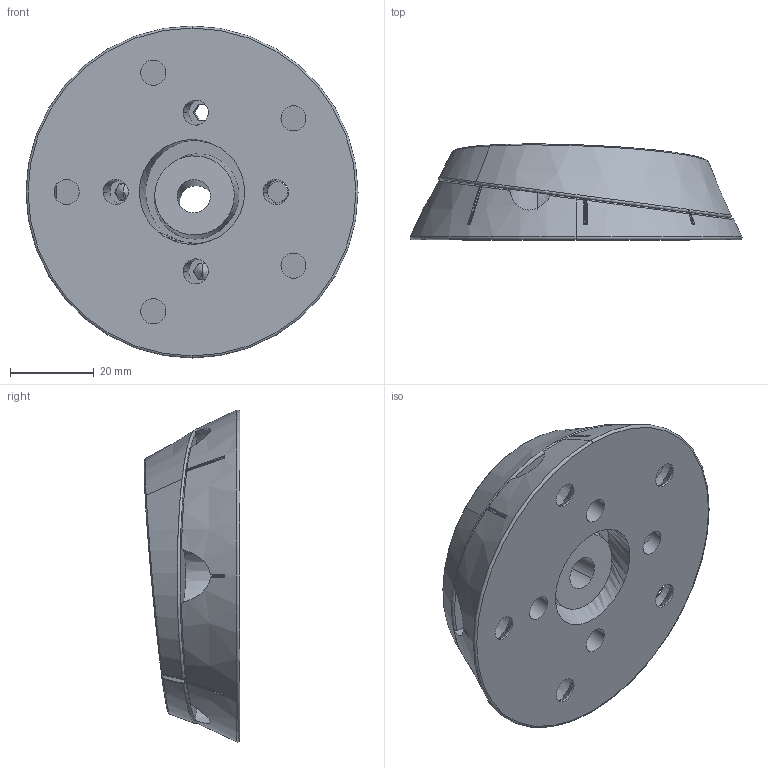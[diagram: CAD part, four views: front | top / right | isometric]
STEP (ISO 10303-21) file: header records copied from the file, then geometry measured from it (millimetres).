
FILE_DESCRIPTION (( 'STEP AP203' ), '1' );
FILE_NAME ('06.11.130-0 Twistn Turn 5dg_Ext. faces.STEP', '2021-03-08T11:03:00', ( '' ), ( '' ), 'SwSTEP 2.0', 'SolidWorks 2020', '' );
FILE_SCHEMA (( 'CONFIG_CONTROL_DESIGN' ));
Length unit declared in the file: millimetre
Products named in the file (1): 06.11.130-0 Twistn Turn 5dg_Ext. faces
Bounding box: 79.43 x 22.89 x 79.43 mm (x, y, z)
Surface area: 24070.7 mm2 (no closed solid volume)
Topology: 0 solids, 7 shells, 255 faces, 738 edges, 474 vertices
Faces by surface type: bspline 82, cone 67, plane 55, cylinder 46, torus 5
Entity records: 11807 total; most frequent: CARTESIAN_POINT 5890, ORIENTED_EDGE 1332, DIRECTION 1024, EDGE_CURVE 734, VERTEX_POINT 474, AXIS2_PLACEMENT_3D 404, EDGE_LOOP 298, ADVANCED_FACE 255
